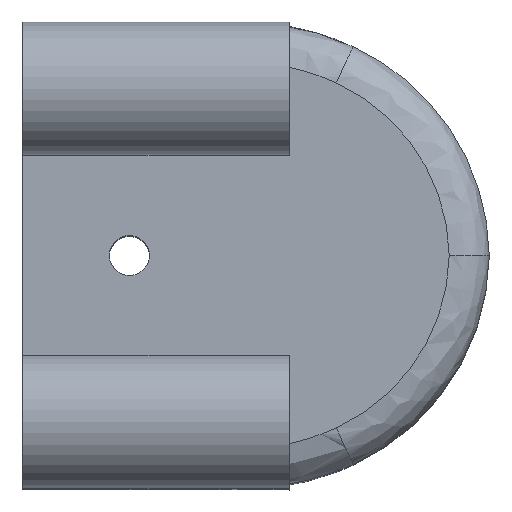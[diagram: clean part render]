
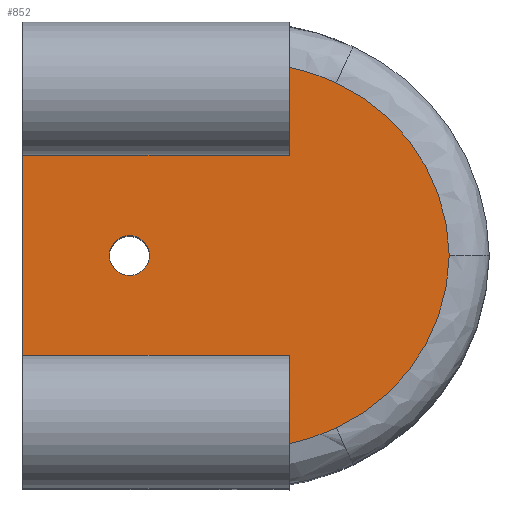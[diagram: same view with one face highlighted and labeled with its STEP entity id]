
A CAD part, top view. The second image highlights one B-rep face of the part: STEP entity #852.
In plain terms, the highlighted free-form (B-spline) face has degree [1, 1] with [2, 2] control points.
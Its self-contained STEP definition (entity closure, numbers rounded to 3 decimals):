
#112=CARTESIAN_POINT('',(20.,14.114,50.));
#113=VERTEX_POINT('',#112);
#187=CARTESIAN_POINT('',(20.,7.5,50.));
#188=VERTEX_POINT('',#187);
#203=CARTESIAN_POINT('',(0.,7.5,50.));
#204=VERTEX_POINT('',#203);
#211=CARTESIAN_POINT('',(0.,7.5,50.));
#212=DIRECTION('',(1.0,0.,0.0));
#213=VECTOR('',#212,20.0);
#214=LINE('',#211,#213);
#215=EDGE_CURVE('',#204,#188,#214,.T.);
#280=CARTESIAN_POINT('',(20.,7.5,50.));
#281=DIRECTION('',(0.,1.0,0.0));
#282=VECTOR('',#281,6.614);
#283=LINE('',#280,#282);
#284=EDGE_CURVE('',#188,#113,#283,.T.);
#308=CARTESIAN_POINT('',(20.,-14.114,50.));
#309=VERTEX_POINT('',#308);
#442=CARTESIAN_POINT('',(20.,-7.5,50.));
#443=VERTEX_POINT('',#442);
#452=CARTESIAN_POINT('',(0.,-7.5,50.));
#453=VERTEX_POINT('',#452);
#454=CARTESIAN_POINT('',(20.,-7.5,50.));
#455=DIRECTION('',(-1.0,0.,0.0));
#456=VECTOR('',#455,20.);
#457=LINE('',#454,#456);
#458=EDGE_CURVE('',#443,#453,#457,.T.);
#544=CARTESIAN_POINT('',(20.,-14.114,50.));
#545=DIRECTION('',(0.,1.0,0.0));
#546=VECTOR('',#545,6.614);
#547=LINE('',#544,#546);
#548=EDGE_CURVE('',#309,#443,#547,.T.);
#790=CARTESIAN_POINT('',(0.,14.114,50.));
#791=CARTESIAN_POINT('',(32.,14.114,50.));
#792=CARTESIAN_POINT('',(0.,-14.114,50.));
#793=CARTESIAN_POINT('',(32.,-14.114,50.));
#794=B_SPLINE_SURFACE_WITH_KNOTS('',1,1,((#790,#792),(#791,#793)),.UNSPECIFIED.,.F.,.F.,.U.,(2,2),(2,2),(0.0,32.),(0.0,28.229),.UNSPECIFIED.);
#795=ORIENTED_EDGE('',*,*,#284,.F.);
#796=ORIENTED_EDGE('',*,*,#215,.F.);
#797=CARTESIAN_POINT('',(0.,-7.5,50.));
#798=DIRECTION('',(0.,1.0,0.0));
#799=VECTOR('',#798,15.);
#800=LINE('',#797,#799);
#801=EDGE_CURVE('',#453,#204,#800,.T.);
#802=ORIENTED_EDGE('',*,*,#801,.F.);
#803=ORIENTED_EDGE('',*,*,#458,.F.);
#804=ORIENTED_EDGE('',*,*,#548,.F.);
#805=CARTESIAN_POINT('',(23.529,-12.933,50.));
#806=VERTEX_POINT('',#805);
#807=CARTESIAN_POINT('',(16.4,2.5,50.));
#808=DIRECTION('',(0.,0.,1.0));
#809=DIRECTION('',(0.215,-0.977,0.));
#810=AXIS2_PLACEMENT_3D('',#807,#808,#809);
#811=CIRCLE('',#810,17.0);
#812=EDGE_CURVE('',#309,#806,#811,.T.);
#813=ORIENTED_EDGE('',*,*,#812,.T.);
#814=CARTESIAN_POINT('',(32.,0.,50.));
#815=VERTEX_POINT('',#814);
#816=CARTESIAN_POINT('',(17.502,0.255,50.));
#817=DIRECTION('',(0.,0.,1.0));
#818=DIRECTION('',(0.837,-0.546,0.));
#819=AXIS2_PLACEMENT_3D('',#816,#817,#818);
#820=CIRCLE('',#819,14.5);
#821=EDGE_CURVE('',#806,#815,#820,.T.);
#822=ORIENTED_EDGE('',*,*,#821,.T.);
#823=CARTESIAN_POINT('',(23.529,12.933,50.));
#824=VERTEX_POINT('',#823);
#825=CARTESIAN_POINT('',(17.502,-0.255,50.));
#826=DIRECTION('',(0.,0.,1.0));
#827=DIRECTION('',(0.837,0.546,0.));
#828=AXIS2_PLACEMENT_3D('',#825,#826,#827);
#829=CIRCLE('',#828,14.5);
#830=EDGE_CURVE('',#815,#824,#829,.T.);
#831=ORIENTED_EDGE('',*,*,#830,.T.);
#832=CARTESIAN_POINT('',(16.4,-2.5,50.));
#833=DIRECTION('',(0.,0.,1.));
#834=DIRECTION('',(0.215,0.977,0.));
#835=AXIS2_PLACEMENT_3D('',#832,#833,#834);
#836=CIRCLE('',#835,17.);
#837=EDGE_CURVE('',#824,#113,#836,.T.);
#838=ORIENTED_EDGE('',*,*,#837,.T.);
#839=EDGE_LOOP('',(#795,#796,#802,#803,#804,#813,#822,#831,#838));
#840=FACE_OUTER_BOUND('',#839,.T.);
#841=CARTESIAN_POINT('',(6.5,0.,50.));
#842=VERTEX_POINT('',#841);
#843=CARTESIAN_POINT('',(8.,0.,50.));
#844=DIRECTION('',(0.0,0.0,1.0));
#845=DIRECTION('',(-1.0,0.0,0.0));
#846=AXIS2_PLACEMENT_3D('',#843,#844,#845);
#847=CIRCLE('',#846,1.5);
#848=EDGE_CURVE('',#842,#842,#847,.T.);
#849=ORIENTED_EDGE('',*,*,#848,.F.);
#850=EDGE_LOOP('',(#849));
#851=FACE_BOUND('',#850,.T.);
#852=ADVANCED_FACE('',(#840,#851),#794,.F.);
